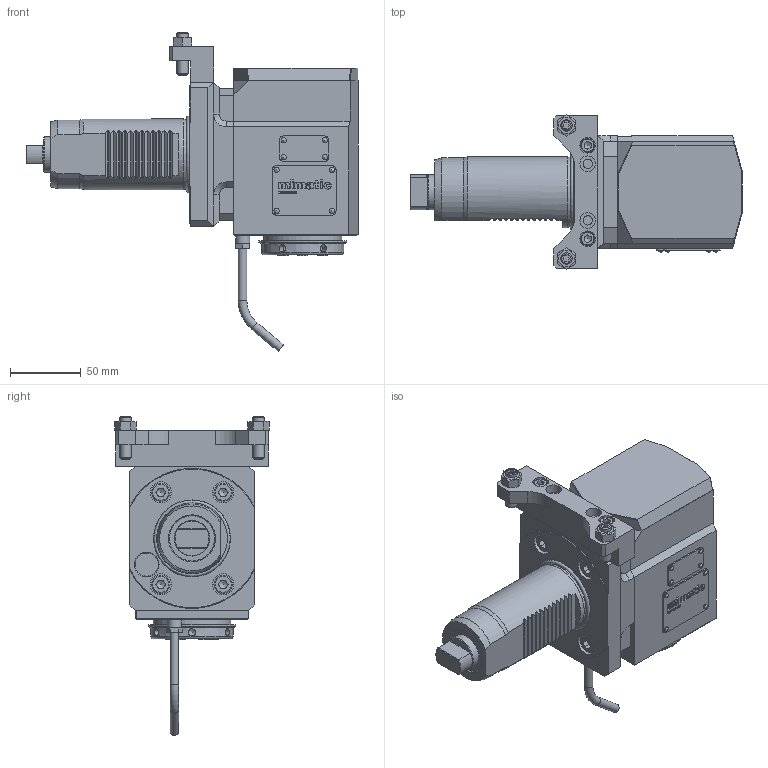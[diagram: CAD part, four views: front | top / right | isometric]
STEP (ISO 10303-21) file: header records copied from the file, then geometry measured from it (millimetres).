
FILE_DESCRIPTION(/* description */ (''),/* implementation_level */ '2;1');
FILE_NAME(/* name */ '124668',/* time_stamp */ '2020-07-20T08:34:03+02:00',/* author */ (''),/* organization */ (''),/* preprocessor_version */ 'ST-DEVELOPER v16.5',/* originating_system */ 'HiCAD 2017 2201.0 Build 268',/* authorisation */ '');
FILE_SCHEMA (('AUTOMOTIVE_DESIGN { 1 0 10303 214 1 1 1 1 }'));
Products named in the file (72): Root; Leeres Teil; 189771_BG-Schaft-EM-C-50_10*; 001_000X_201*; DIN 13-M20x1; 114012_O-Ring 47.29x2.6_330*; DIN 912      (Innensechskant)_Zylinderschraube 8x35_400*; GEWINDE; ISO 4032-M 8-6_Sechskantmutter ISO 4032-M 8-6_350*; DIN 913-M 8x30-45H_Gewindwstift DIN 913-M 8x30-45H_420*; Normteilgruppe _0; DIN 912      (Innensechskant)_Zylinderschraube 6x25_401*; 001_000X_205*; DIN 13-M8; ROTATIONSTEIL_1_200*; DIN 13-M50x1; Leeres Teil_20*; 112977_Spannmutter ER32 HI_QERAX_340*; 003_000X; ROTATIONSTEIL_0_150*; DIN 13-M25x1; DIN 76-M5; DIN 76-M8; DIN 13-M40x1,5; 003_000X_235*; 002_000X_100*; BG_M10; 112485_Überwurfschraube_353*; 112384_Doppelkegelring D6_352*; TORUS_1_354*; 00011769_372*; 113692_Kerbnagel 2x4_380*; QUADER_0_370*
Assembly tree (71 placements, depth 8):
  Root
    Leeres Teil
      189771_BG-Schaft-EM-C-50_10*
        Leeres Teil
          Leeres Teil
            001_000X_201*
              DIN 13-M20x1
        Leeres Teil
          Leeres Teil
            114012_O-Ring 47.29x2.6_330*
            Leeres Teil
              DIN 912      (Innensechskant)_Zylinderschraube 8x35_400*
                GEWINDE
              DIN 912      (Innensechskant)_Zylinderschraube 8x35_400*
                GEWINDE
              DIN 912      (Innensechskant)_Zylinderschraube 8x35_400*
                GEWINDE
              DIN 912      (Innensechskant)_Zylinderschraube 8x35_400*
                GEWINDE
          Leeres Teil
            ISO 4032-M 8-6_Sechskantmutter ISO 4032-M 8-6_350*
              GEWINDE
            ISO 4032-M 8-6_Sechskantmutter ISO 4032-M 8-6_350*
              GEWINDE
            DIN 913-M 8x30-45H_Gewindwstift DIN 913-M 8x30-45H_420*
              GEWINDE
            DIN 913-M 8x30-45H_Gewindwstift DIN 913-M 8x30-45H_420*
              GEWINDE
            Normteilgruppe _0
              DIN 912      (Innensechskant)_Zylinderschraube 6x25_401*
                GEWINDE
              DIN 912      (Innensechskant)_Zylinderschraube 6x25_401*
                GEWINDE
            001_000X_205*
              DIN 13-M8
          ROTATIONSTEIL_1_200*
            DIN 13-M50x1
      Leeres Teil_20*
        Leeres Teil
          Leeres Teil
            112977_Spannmutter ER32 HI_QERAX_340*
              (unnamed)
              003_000X
          Leeres Teil
            ROTATIONSTEIL_0_150*
              DIN 13-M25x1
              DIN 76-M5
              DIN 76-M8
              DIN 13-M40x1,5
        Leeres Teil
          Leeres Teil
            003_000X_235*
            002_000X_100*
          Leeres Teil
            BG_M10
              112485_Überwurfschraube_353*
                (unnamed)
              112384_Doppelkegelring D6_352*
              TORUS_1_354*
            Leeres Teil
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Bounding box: 234.5 x 109.04 x 225.17 mm (x, y, z)
Volume: 1282354.2 mm3; surface area: 191924 mm2
Topology: 43 solids, 43 shells, 951 faces, 2393 edges, 1561 vertices
Faces by surface type: plane 592, cylinder 232, cone 56, bspline 38, torus 25, sphere 8
Full cylindrical faces by diameter (mm): 2 x8, 2.2 x8, 4 x2, 4.773 x4, 5.1 x6, 6 x7, 6.466 x8, 6.6 x4, 6.8 x1, 8 x12, 8.773 x2, 10 x3, 11 x4, 13 x4, 15 x4, 16.3 x1, 20 x1, 23.5 x1, 25 x1, 27 x1, 29 x1, 38.16 x2, 38.5 x1, 40 x3, 40.501 x1, 48.7 x1, 50 x1, 55 x2, 58 x1, 62 x1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
Entity records: 55447 total; most frequent: CARTESIAN_POINT 11354, DIRECTION 4587, PRESENTATION_STYLE_ASSIGNMENT 4323, COLOUR_RGB 4283, OVER_RIDING_STYLED_ITEM 4281, DRAUGHTING_PRE_DEFINED_CURVE_FONT 4278, CURVE_STYLE 4278, ORIENTED_EDGE 4278
